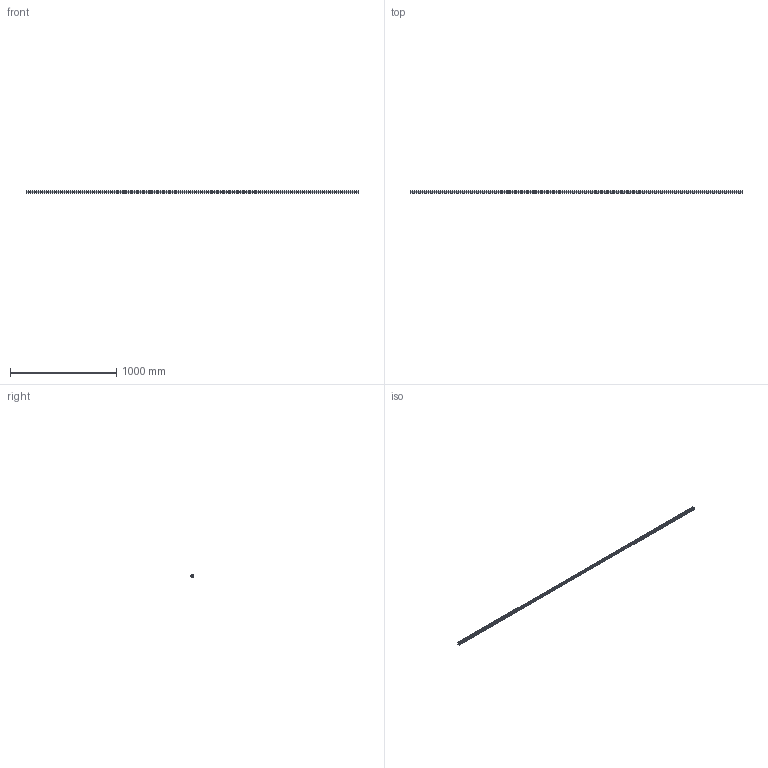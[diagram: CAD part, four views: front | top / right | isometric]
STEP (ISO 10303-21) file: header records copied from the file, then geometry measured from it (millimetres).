
FILE_DESCRIPTION (( 'STEP AP203' ), '1' );
FILE_NAME ('L1018.25R-3120.step', '2023-08-06T10:45:56', ( '' ), ( '' ), 'SwSTEP 2.0', 'SolidWorks 2019', '' );
FILE_SCHEMA (( 'CONFIG_CONTROL_DESIGN' ));
Length unit declared in the file: millimetre
Products named in the file (1): L1018.25R-3120
Bounding box: 3120 x 21.8 x 25 mm (x, y, z)
Volume: 1297570.9 mm3; surface area: 310661.2 mm2
Topology: 1 solids, 1 shells, 497 faces, 1121 edges, 626 vertices
Faces by surface type: cylinder 211, cone 208, plane 78
Entity records: 13166 total; most frequent: DIRECTION 2539, CARTESIAN_POINT 2141, ORIENTED_EDGE 2034, AXIS2_PLACEMENT_3D 1024, EDGE_CURVE 1017, VERTEX_POINT 626, EDGE_LOOP 601, CIRCLE 526
